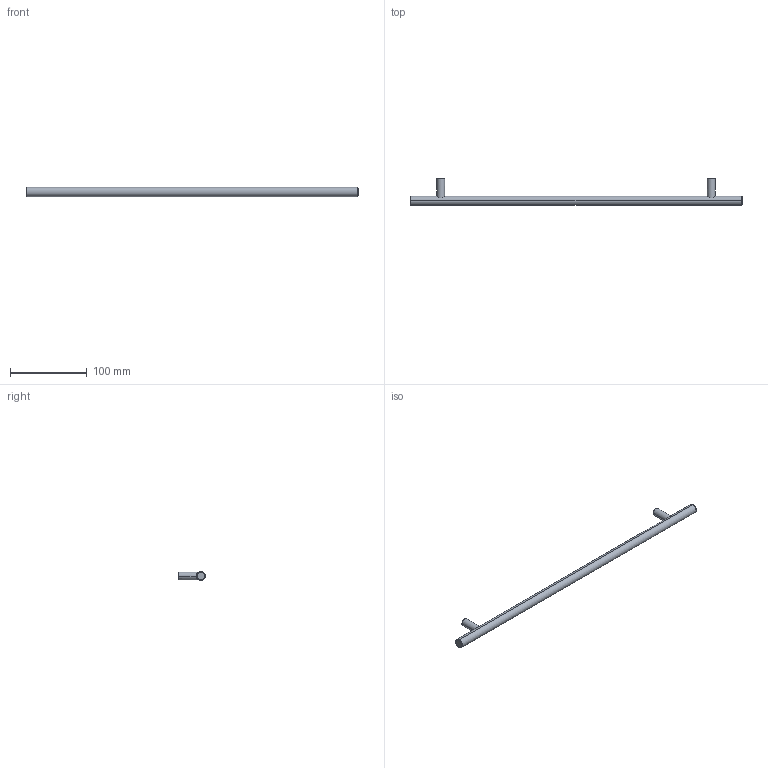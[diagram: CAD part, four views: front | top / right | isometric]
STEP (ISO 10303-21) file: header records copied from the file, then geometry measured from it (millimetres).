
FILE_DESCRIPTION( ( '' ), '1' );
FILE_NAME( 'C:/Documents and Settings/Sachin/Desktop/Sheet 10_1/stp/9070758.stp', '2013-10-22T12:35:44', ( '' ), ( '' ), ' ', ' ', ' ' );
FILE_SCHEMA( ( 'CONFIG_CONTROL_DESIGN' ) );
Length unit declared in the file: millimetre
Products named in the file (1): 1
Bounding box: 432 x 35 x 12 mm (x, y, z)
Volume: 52345.5 mm3; surface area: 18183.8 mm2
Topology: 1 solids, 1 shells, 20 faces, 44 edges, 30 vertices
Faces by surface type: cylinder 10, plane 6, torus 4
Entity records: 738 total; most frequent: CARTESIAN_POINT 229, DIRECTION 108, ORIENTED_EDGE 88, AXIS2_PLACEMENT_3D 49, EDGE_CURVE 44, VERTEX_POINT 30, CIRCLE 28, EDGE_LOOP 24
